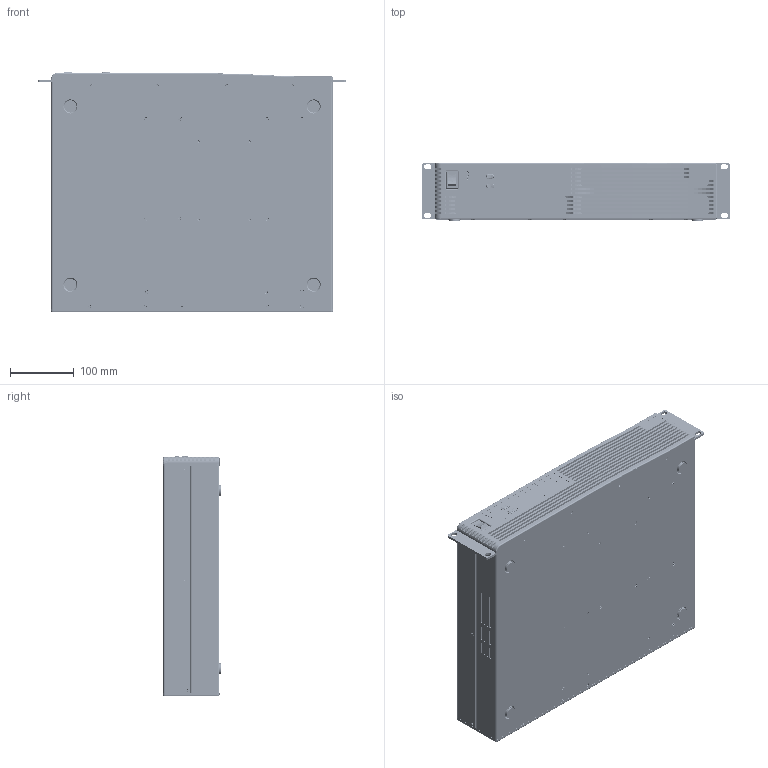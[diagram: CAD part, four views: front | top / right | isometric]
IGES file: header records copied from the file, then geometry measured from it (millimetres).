
Start section: SolidWorks IGES file using analytic representation for surfaces
Global section: file name: H:\Dropbox\Mechanical Engr\Development Projects (P)\7200 MultiSource Controller Series\Customer Model Development\Step 6 - 7244 TLA.IGS; native system: SolidWorks 2019; preprocessor: SolidWorks 2019; author: mrhan; date: 200405.175558; units: inch
Bounding box: 482.6 x 90.59 x 377.63 mm (x, y, z)
Surface area: 649870.1 mm2 (no closed solid volume)
Topology: 0 solids, 0 shells, 14770 faces, 127912 edges, 127828 vertices
Faces by surface type: bspline 12050, revolution 2720
